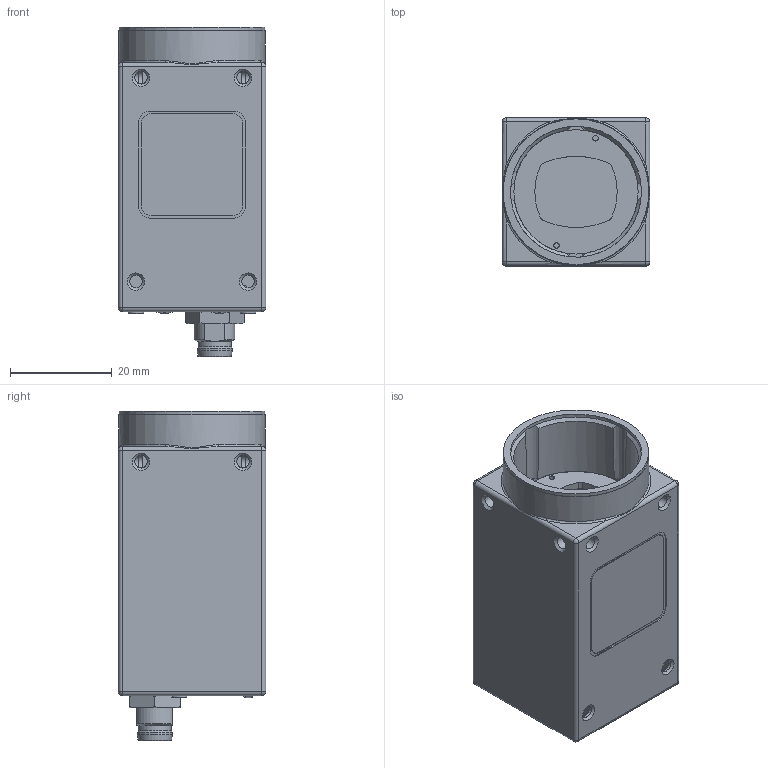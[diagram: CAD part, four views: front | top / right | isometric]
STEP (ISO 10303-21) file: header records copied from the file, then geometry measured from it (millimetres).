
FILE_DESCRIPTION( ( 'Unknown' ), '1' );
FILE_NAME( 'C:/Users/rih/Desktop/11151555_VCXG-53C.stp', '14.10.2014', ( 'Unknown' ), ( 'Unknown' ), 'PSStep 15.0.49', 'Unknown', ' ' );
FILE_SCHEMA( ( 'AUTOMOTIVE_DESIGN { 1 0 10303 214 1 1 1 1 }' ) );
Length unit declared in the file: millimetre
Products named in the file (4): 11080147
Bounding box: 29 x 29 x 64.75 mm (x, y, z)
Volume: 13564.3 mm3; surface area: 23819.5 mm2
Topology: 4 solids, 9 shells, 3341 faces, 9355 edges, 6019 vertices
Faces by surface type: plane 2273, cylinder 855, cone 72, torus 53, sphere 48, bspline 36, extrusion 4
Full cylindrical faces by diameter (mm): 0.217 x1, 0.6 x16, 1.1 x2, 1.4 x4, 1.567 x2, 1.6 x2, 1.9 x4, 2.459 x10, 3 x4, 6.5 x1, 6.9 x1, 8.4 x1, 9 x1, 9.4 x1, 19 x1, 24.4 x1, 25.7 x1, 26 x1, 28.6 x1, 28.7 x1
Entity records: 135899 total; most frequent: CARTESIAN_POINT 23144, ORIENTED_EDGE 18292, DIRECTION 17586, EDGE_CURVE 9146, VECTOR 6492, LINE 6488, VERTEX_POINT 5948, AXIS2_PLACEMENT_3D 5547
